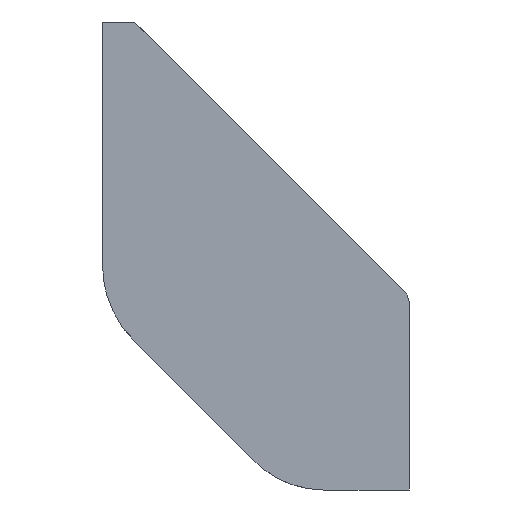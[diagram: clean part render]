
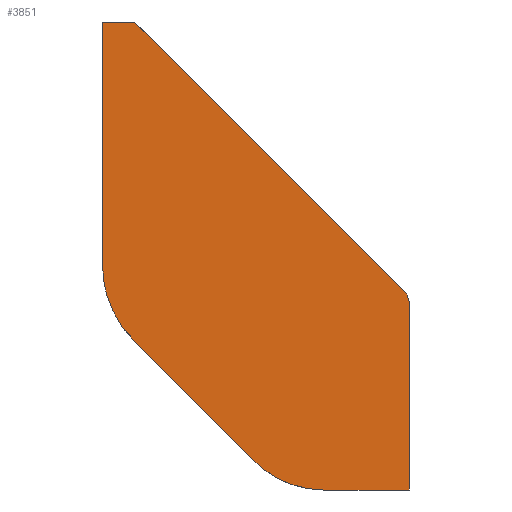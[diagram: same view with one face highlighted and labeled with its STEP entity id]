
A CAD part, front view. The second image highlights one B-rep face of the part: STEP entity #3851.
In plain terms, the highlighted planar face has unit normal (0, -1, 0).
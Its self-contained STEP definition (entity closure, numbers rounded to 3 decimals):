
#313=ELLIPSE('',#4093,31.559,30.);
#314=ELLIPSE('',#4094,30.144,30.);
#339=FACE_OUTER_BOUND('',#566,.T.);
#566=EDGE_LOOP('',(#2544,#2545,#2546,#2547,#2548,#2549,#2550,#2551,#2552));
#1192=LINE('',#4847,#1333);
#1195=LINE('',#4858,#1336);
#1196=LINE('',#4860,#1337);
#1197=LINE('',#4862,#1338);
#1198=LINE('',#4866,#1339);
#1199=LINE('',#4870,#1340);
#1200=LINE('',#4871,#1341);
#1333=VECTOR('',#4298,10.);
#1336=VECTOR('',#4303,10.);
#1337=VECTOR('',#4304,10.);
#1338=VECTOR('',#4305,10.);
#1339=VECTOR('',#4308,10.);
#1340=VECTOR('',#4311,10.);
#1341=VECTOR('',#4312,10.);
#1474=VERTEX_POINT('',#4845);
#1475=VERTEX_POINT('',#4846);
#1478=VERTEX_POINT('',#4857);
#1479=VERTEX_POINT('',#4859);
#1480=VERTEX_POINT('',#4861);
#1481=VERTEX_POINT('',#4863);
#1482=VERTEX_POINT('',#4865);
#1483=VERTEX_POINT('',#4867);
#1484=VERTEX_POINT('',#4869);
#1893=EDGE_CURVE('',#1474,#1475,#1192,.T.);
#1897=EDGE_CURVE('',#1474,#1478,#1195,.T.);
#1898=EDGE_CURVE('',#1479,#1478,#1196,.T.);
#1899=EDGE_CURVE('',#1480,#1479,#1197,.T.);
#1900=EDGE_CURVE('',#1481,#1480,#313,.T.);
#1901=EDGE_CURVE('',#1481,#1482,#1198,.T.);
#1902=EDGE_CURVE('',#1483,#1482,#314,.T.);
#1903=EDGE_CURVE('',#1483,#1484,#1199,.T.);
#1904=EDGE_CURVE('',#1484,#1475,#1200,.T.);
#2544=ORIENTED_EDGE('',*,*,#1893,.F.);
#2545=ORIENTED_EDGE('',*,*,#1897,.T.);
#2546=ORIENTED_EDGE('',*,*,#1898,.F.);
#2547=ORIENTED_EDGE('',*,*,#1899,.F.);
#2548=ORIENTED_EDGE('',*,*,#1900,.F.);
#2549=ORIENTED_EDGE('',*,*,#1901,.T.);
#2550=ORIENTED_EDGE('',*,*,#1902,.F.);
#2551=ORIENTED_EDGE('',*,*,#1903,.T.);
#2552=ORIENTED_EDGE('',*,*,#1904,.T.);
#3835=PLANE('',#4092);
#3851=ADVANCED_FACE('',(#339),#3835,.T.);
#4092=AXIS2_PLACEMENT_3D('',#4856,#4301,#4302);
#4093=AXIS2_PLACEMENT_3D('',#4864,#4306,#4307);
#4094=AXIS2_PLACEMENT_3D('',#4868,#4309,#4310);
#4298=DIRECTION('',(0.259,0.,-0.966));
#4301=DIRECTION('center_axis',(0.,-1.,0.));
#4302=DIRECTION('ref_axis',(1.,0.,0.));
#4303=DIRECTION('',(-0.707,0.,0.707));
#4304=DIRECTION('',(1.,0.,0.));
#4305=DIRECTION('',(0.,0.,1.));
#4306=DIRECTION('center_axis',(0.,1.,0.));
#4307=DIRECTION('ref_axis',(-0.707,0.,0.707));
#4308=DIRECTION('',(0.707,0.,-0.707));
#4309=DIRECTION('center_axis',(0.,1.,0.));
#4310=DIRECTION('ref_axis',(0.707,0.,-0.707));
#4311=DIRECTION('',(1.,0.,0.));
#4312=DIRECTION('',(0.,0.,1.));
#4845=CARTESIAN_POINT('',(17.943,-39.478,60.732));
#4846=CARTESIAN_POINT('',(18.675,-39.478,58.));
#4847=CARTESIAN_POINT('',(22.56,-39.478,43.501));
#4856=CARTESIAN_POINT('Origin',(-76.325,-39.478,0.));
#4857=CARTESIAN_POINT('',(-66.325,-39.478,145.));
#4858=CARTESIAN_POINT('',(9.925,-39.478,68.75));
#4859=CARTESIAN_POINT('',(-76.325,-39.478,145.));
#4860=CARTESIAN_POINT('',(-76.325,-39.478,145.));
#4861=CARTESIAN_POINT('',(-76.325,-39.478,69.2));
#4862=CARTESIAN_POINT('',(-76.325,-39.478,0.));
#4863=CARTESIAN_POINT('',(-66.749,-39.478,46.429));
#4864=CARTESIAN_POINT('Origin',(-45.536,-39.478,67.642));
#4865=CARTESIAN_POINT('',(-29.179,-39.478,8.859));
#4866=CARTESIAN_POINT('',(-62.324,-39.478,42.004));
#4867=CARTESIAN_POINT('',(-7.822,-39.478,0.));
#4868=CARTESIAN_POINT('Origin',(-7.966,-39.478,30.072));
#4869=CARTESIAN_POINT('',(18.675,-39.478,0.));
#4870=CARTESIAN_POINT('',(-76.325,-39.478,0.));
#4871=CARTESIAN_POINT('',(18.675,-39.478,0.));
